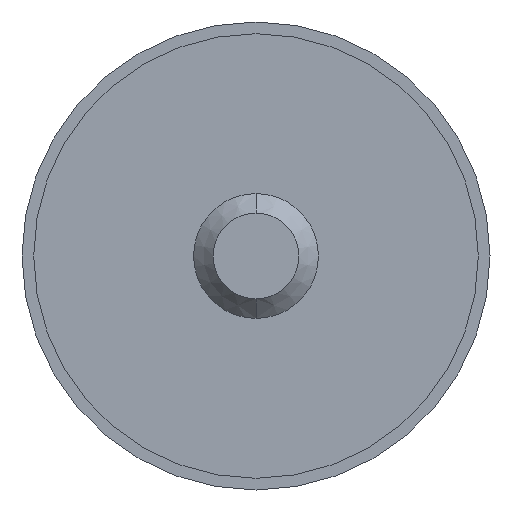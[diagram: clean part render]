
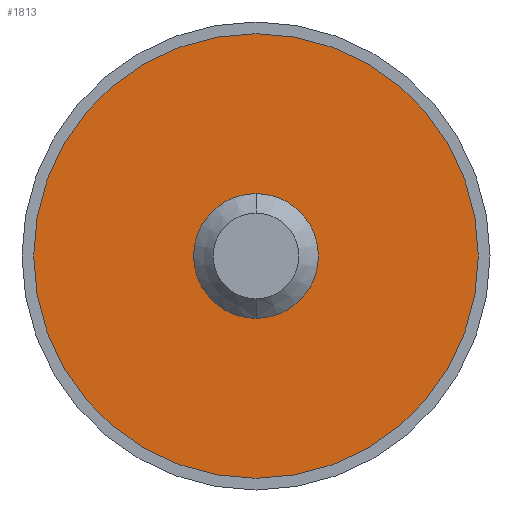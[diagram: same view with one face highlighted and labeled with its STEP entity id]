
A CAD part, front view. The second image highlights one B-rep face of the part: STEP entity #1813.
In plain terms, the highlighted planar face has unit normal (0, -1, 0).
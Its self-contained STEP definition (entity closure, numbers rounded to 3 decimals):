
#200 = AXIS2_PLACEMENT_3D ( 'NONE', #2639, #831, #2947 ) ;
#310 = EDGE_CURVE ( 'NONE', #2134, #3002, #3267, .T. ) ;
#358 = EDGE_CURVE ( 'NONE', #3008, #2708, #3352, .T. ) ;
#468 = EDGE_CURVE ( 'NONE', #2708, #3008, #3075, .T. ) ;
#541 = CARTESIAN_POINT ( 'NONE',  ( 0., -0.5, 4. ) ) ;
#778 = CARTESIAN_POINT ( 'NONE',  ( 0., -0.5, 0. ) ) ;
#831 = DIRECTION ( 'NONE',  ( 0., 1., 0. ) ) ;
#1075 = ORIENTED_EDGE ( 'NONE', *, *, #2967, .F. ) ;
#1611 = ORIENTED_EDGE ( 'NONE', *, *, #468, .F. ) ;
#1780 = CIRCLE ( 'NONE', #200, 14.25 ) ;
#1813 = ADVANCED_FACE ( 'NONE', ( #3857, #3065 ), #3824, .F. ) ;
#1848 = EDGE_LOOP ( 'NONE', ( #1611, #2465 ) ) ;
#1930 = AXIS2_PLACEMENT_3D ( 'NONE', #778, #3209, #3501 ) ;
#2016 = CARTESIAN_POINT ( 'NONE',  ( 0., -0.5, 0. ) ) ;
#2036 = DIRECTION ( 'NONE',  ( 0., -1., 0. ) ) ;
#2044 = DIRECTION ( 'NONE',  ( 0., 1., 0. ) ) ;
#2053 = ORIENTED_EDGE ( 'NONE', *, *, #310, .F. ) ;
#2134 = VERTEX_POINT ( 'NONE', #2162 ) ;
#2162 = CARTESIAN_POINT ( 'NONE',  ( 0., -0.5, 14.25 ) ) ;
#2168 = EDGE_LOOP ( 'NONE', ( #2053, #1075 ) ) ;
#2342 = DIRECTION ( 'NONE',  ( 0., 0., 1. ) ) ;
#2373 = CARTESIAN_POINT ( 'NONE',  ( 0., -0.5, 0. ) ) ;
#2465 = ORIENTED_EDGE ( 'NONE', *, *, #358, .F. ) ;
#2538 = AXIS2_PLACEMENT_3D ( 'NONE', #3830, #2962, #3536 ) ;
#2639 = CARTESIAN_POINT ( 'NONE',  ( 0., -0.5, 0. ) ) ;
#2660 = CARTESIAN_POINT ( 'NONE',  ( 0., -0.5, -4. ) ) ;
#2708 = VERTEX_POINT ( 'NONE', #541 ) ;
#2944 = DIRECTION ( 'NONE',  ( 0., 0., -1. ) ) ;
#2947 = DIRECTION ( 'NONE',  ( 0., 0., 1. ) ) ;
#2962 = DIRECTION ( 'NONE',  ( 0., -1., 0. ) ) ;
#2967 = EDGE_CURVE ( 'NONE', #3002, #2134, #1780, .T. ) ;
#3002 = VERTEX_POINT ( 'NONE', #3293 ) ;
#3008 = VERTEX_POINT ( 'NONE', #2660 ) ;
#3065 = FACE_OUTER_BOUND ( 'NONE', #2168, .T. ) ;
#3075 = CIRCLE ( 'NONE', #2538, 4. ) ;
#3209 = DIRECTION ( 'NONE',  ( 0., 1., 0. ) ) ;
#3267 = CIRCLE ( 'NONE', #1930, 14.25 ) ;
#3293 = CARTESIAN_POINT ( 'NONE',  ( 0., -0.5, -14.25 ) ) ;
#3352 = CIRCLE ( 'NONE', #3570, 4. ) ;
#3367 = AXIS2_PLACEMENT_3D ( 'NONE', #2016, #2044, #2342 ) ;
#3501 = DIRECTION ( 'NONE',  ( 0., 0., 1. ) ) ;
#3536 = DIRECTION ( 'NONE',  ( 0., 0., -1. ) ) ;
#3570 = AXIS2_PLACEMENT_3D ( 'NONE', #2373, #2036, #2944 ) ;
#3824 = PLANE ( 'NONE',  #3367 ) ;
#3830 = CARTESIAN_POINT ( 'NONE',  ( 0., -0.5, 0. ) ) ;
#3857 = FACE_BOUND ( 'NONE', #1848, .T. ) ;
